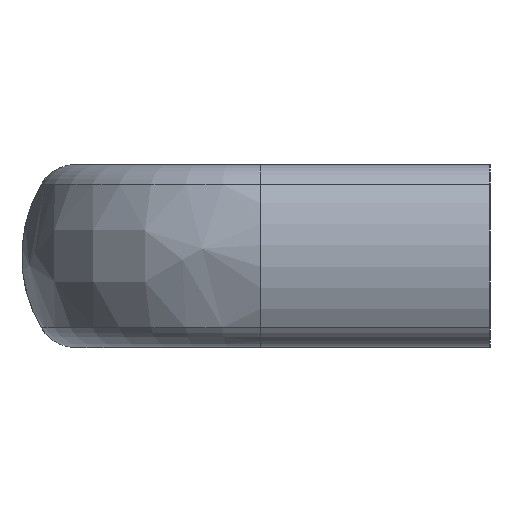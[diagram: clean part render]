
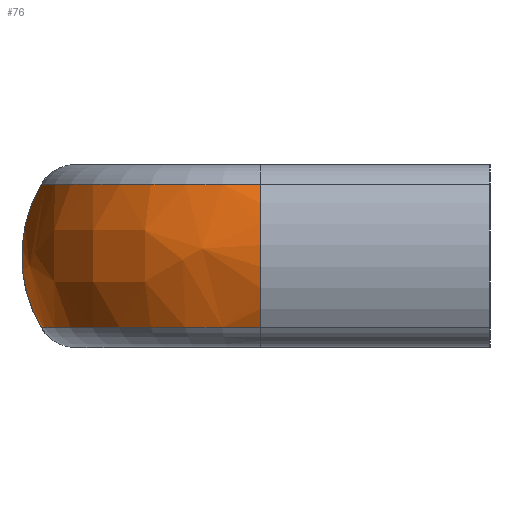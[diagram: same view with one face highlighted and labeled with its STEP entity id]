
A CAD part, left-side view. The second image highlights one B-rep face of the part: STEP entity #76.
In plain terms, the highlighted free-form (B-spline) face has degree [3, 3] with [4, 4] control points.
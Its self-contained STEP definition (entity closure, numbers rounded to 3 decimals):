
#76 = ADVANCED_FACE( '', ( #131 ), #132, .T. );
#131 = FACE_OUTER_BOUND( '', #243, .T. );
#132 = ( BOUNDED_SURFACE(  )B_SPLINE_SURFACE( 3, 3, ( ( #246, #247, #248, #249 ), ( #250, #251, #252, #253 ), ( #254, #255, #256, #257 ), ( #258, #259, #260, #261 ) ), .UNSPECIFIED., .F., .F., .F. )B_SPLINE_SURFACE_WITH_KNOTS( ( 4, 4 ), ( 4, 4 ), ( 1.571, 3.142 ), ( -0.533, 0.533 ), .UNSPECIFIED. )GEOMETRIC_REPRESENTATION_ITEM(  )RATIONAL_B_SPLINE_SURFACE( ( ( 1., 0.805, 0.805, 1. ), ( 0.907, 0.73, 0.73, 0.907 ), ( 0.907, 0.73, 0.73, 0.907 ), ( 1., 0.805, 0.805, 1. ) ) )REPRESENTATION_ITEM( '' )SURFACE(  ) );
#243 = EDGE_LOOP( '', ( #404, #405, #406, #407 ) );
#246 = CARTESIAN_POINT( '', ( -80.5, 48.852, 7.826 ) );
#247 = CARTESIAN_POINT( '', ( -94.472, 48.852, 7.826 ) );
#248 = CARTESIAN_POINT( '', ( -104.352, 38.972, 7.826 ) );
#249 = CARTESIAN_POINT( '', ( -104.352, 25., 7.826 ) );
#250 = CARTESIAN_POINT( '', ( -80.5, 51.775, 2.875 ) );
#251 = CARTESIAN_POINT( '', ( -96.185, 51.775, 2.875 ) );
#252 = CARTESIAN_POINT( '', ( -107.275, 40.685, 2.875 ) );
#253 = CARTESIAN_POINT( '', ( -107.275, 25., 2.875 ) );
#254 = CARTESIAN_POINT( '', ( -80.5, 51.775, -2.875 ) );
#255 = CARTESIAN_POINT( '', ( -96.185, 51.775, -2.875 ) );
#256 = CARTESIAN_POINT( '', ( -107.275, 40.685, -2.875 ) );
#257 = CARTESIAN_POINT( '', ( -107.275, 25., -2.875 ) );
#258 = CARTESIAN_POINT( '', ( -80.5, 48.852, -7.826 ) );
#259 = CARTESIAN_POINT( '', ( -94.472, 48.852, -7.826 ) );
#260 = CARTESIAN_POINT( '', ( -104.352, 38.972, -7.826 ) );
#261 = CARTESIAN_POINT( '', ( -104.352, 25., -7.826 ) );
#404 = ORIENTED_EDGE( '', *, *, #799, .T. );
#405 = ORIENTED_EDGE( '', *, *, #800, .F. );
#406 = ORIENTED_EDGE( '', *, *, #801, .F. );
#407 = ORIENTED_EDGE( '', *, *, #802, .T. );
#799 = EDGE_CURVE( '', #921, #925, #927, .T. );
#800 = EDGE_CURVE( '', #928, #925, #929, .T. );
#801 = EDGE_CURVE( '', #930, #928, #931, .T. );
#802 = EDGE_CURVE( '', #930, #921, #932, .T. );
#921 = VERTEX_POINT( '', #1118 );
#925 = VERTEX_POINT( '', #1127 );
#927 = CIRCLE( '', #1129, 23.852 );
#928 = VERTEX_POINT( '', #1130 );
#929 = CIRCLE( '', #1131, 15.391 );
#930 = VERTEX_POINT( '', #1132 );
#931 = CIRCLE( '', #1133, 23.852 );
#932 = B_SPLINE_CURVE_WITH_KNOTS( '', 3, ( #1134, #1135, #1136, #1137, #1138, #1139, #1140, #1141, #1142, #1143 ), .UNSPECIFIED., .F., .F., ( 4, 2, 2, 2, 4 ), ( 0., 0.25, 0.5, 0.75, 1. ), .UNSPECIFIED. );
#1118 = CARTESIAN_POINT( '', ( -80.5, 48.852, -7.833 ) );
#1127 = CARTESIAN_POINT( '', ( -104.352, 25., -7.826 ) );
#1129 = AXIS2_PLACEMENT_3D( '', #1398, #1399, #1400 );
#1130 = CARTESIAN_POINT( '', ( -104.352, 25., 7.826 ) );
#1131 = AXIS2_PLACEMENT_3D( '', #1401, #1402, #1403 );
#1132 = CARTESIAN_POINT( '', ( -80.5, 48.851, 7.834 ) );
#1133 = AXIS2_PLACEMENT_3D( '', #1404, #1405, #1406 );
#1134 = CARTESIAN_POINT( '', ( -80.5, 48.852, 7.826 ) );
#1135 = CARTESIAN_POINT( '', ( -80.5, 49.548, 6.648 ) );
#1136 = CARTESIAN_POINT( '', ( -80.5, 50.085, 5.376 ) );
#1137 = CARTESIAN_POINT( '', ( -80.5, 50.806, 2.736 ) );
#1138 = CARTESIAN_POINT( '', ( -80.5, 50.99, 1.368 ) );
#1139 = CARTESIAN_POINT( '', ( -80.5, 50.99, -1.368 ) );
#1140 = CARTESIAN_POINT( '', ( -80.5, 50.806, -2.736 ) );
#1141 = CARTESIAN_POINT( '', ( -80.5, 50.085, -5.376 ) );
#1142 = CARTESIAN_POINT( '', ( -80.5, 49.548, -6.648 ) );
#1143 = CARTESIAN_POINT( '', ( -80.5, 48.852, -7.826 ) );
#1398 = CARTESIAN_POINT( '', ( -80.5, 25., -7.826 ) );
#1399 = DIRECTION( '', ( 0., 0., 1. ) );
#1400 = DIRECTION( '', ( 1., 0., 0. ) );
#1401 = CARTESIAN_POINT( '', ( -91.099, 25., 0. ) );
#1402 = DIRECTION( '', ( 0., -1., 0. ) );
#1403 = DIRECTION( '', ( 0., 0., 1. ) );
#1404 = CARTESIAN_POINT( '', ( -80.5, 25., 7.826 ) );
#1405 = DIRECTION( '', ( 0., 0., 1. ) );
#1406 = DIRECTION( '', ( 1., 0., 0. ) );
